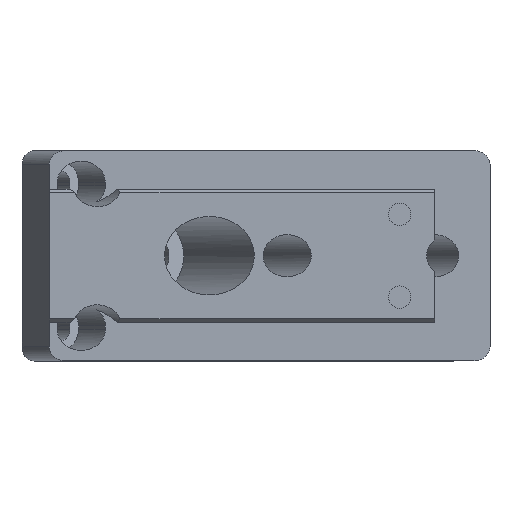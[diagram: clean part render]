
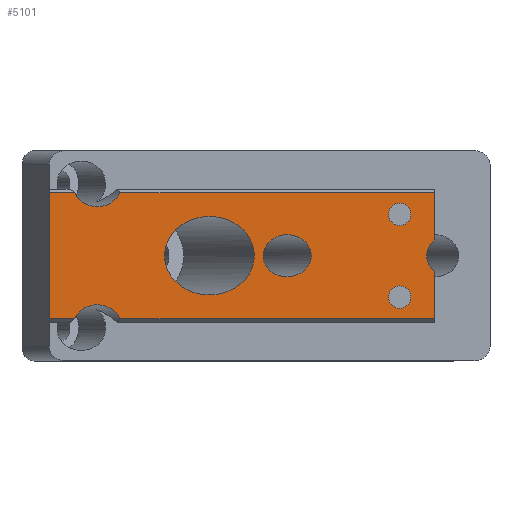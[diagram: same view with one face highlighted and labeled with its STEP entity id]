
A CAD part, top view. The second image highlights one B-rep face of the part: STEP entity #5101.
In plain terms, the highlighted planar face has unit normal (0, 0, 1).
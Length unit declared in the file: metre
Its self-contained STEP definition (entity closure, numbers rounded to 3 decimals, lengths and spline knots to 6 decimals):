
#270=ELLIPSE('',#5422,0.006403,0.0056);
#271=ELLIPSE('',#5423,0.00343,0.003);
#272=ELLIPSE('',#5426,0.00343,0.003);
#273=ELLIPSE('',#5427,0.00343,0.003);
#274=ELLIPSE('',#5428,0.00343,0.003);
#373=CIRCLE('',#5424,0.0016);
#374=CIRCLE('',#5425,0.0016);
#500=ORIENTED_EDGE('',*,*,#2068,.T.);
#501=ORIENTED_EDGE('',*,*,#2069,.T.);
#502=ORIENTED_EDGE('',*,*,#2070,.T.);
#503=ORIENTED_EDGE('',*,*,#2071,.T.);
#504=ORIENTED_EDGE('',*,*,#2072,.F.);
#505=ORIENTED_EDGE('',*,*,#2073,.T.);
#506=ORIENTED_EDGE('',*,*,#2074,.T.);
#507=ORIENTED_EDGE('',*,*,#2075,.T.);
#508=ORIENTED_EDGE('',*,*,#2076,.F.);
#509=ORIENTED_EDGE('',*,*,#2077,.T.);
#510=ORIENTED_EDGE('',*,*,#2078,.F.);
#511=ORIENTED_EDGE('',*,*,#2079,.T.);
#512=ORIENTED_EDGE('',*,*,#2080,.F.);
#513=ORIENTED_EDGE('',*,*,#2081,.T.);
#2068=EDGE_CURVE('',#2852,#2852,#270,.T.);
#2069=EDGE_CURVE('',#2853,#2853,#271,.T.);
#2070=EDGE_CURVE('',#2854,#2854,#373,.T.);
#2071=EDGE_CURVE('',#2855,#2855,#374,.T.);
#2072=EDGE_CURVE('',#2856,#2857,#272,.F.);
#2073=EDGE_CURVE('',#2856,#2858,#3360,.T.);
#2074=EDGE_CURVE('',#2858,#2859,#3361,.T.);
#2075=EDGE_CURVE('',#2859,#2860,#3362,.T.);
#2076=EDGE_CURVE('',#2861,#2860,#273,.F.);
#2077=EDGE_CURVE('',#2861,#2862,#3363,.T.);
#2078=EDGE_CURVE('',#2863,#2862,#3364,.T.);
#2079=EDGE_CURVE('',#2863,#2864,#274,.T.);
#2080=EDGE_CURVE('',#2865,#2864,#3365,.T.);
#2081=EDGE_CURVE('',#2865,#2857,#3366,.T.);
#2852=VERTEX_POINT('',#6969);
#2853=VERTEX_POINT('',#6971);
#2854=VERTEX_POINT('',#6973);
#2855=VERTEX_POINT('',#6975);
#2856=VERTEX_POINT('',#6977);
#2857=VERTEX_POINT('',#6978);
#2858=VERTEX_POINT('',#6980);
#2859=VERTEX_POINT('',#6982);
#2860=VERTEX_POINT('',#6984);
#2861=VERTEX_POINT('',#6986);
#2862=VERTEX_POINT('',#6988);
#2863=VERTEX_POINT('',#6990);
#2864=VERTEX_POINT('',#6992);
#2865=VERTEX_POINT('',#6994);
#3360=LINE('',#6979,#3841);
#3361=LINE('',#6981,#3842);
#3362=LINE('',#6983,#3843);
#3363=LINE('',#6987,#3844);
#3364=LINE('',#6989,#3845);
#3365=LINE('',#6993,#3846);
#3366=LINE('',#6995,#3847);
#3841=VECTOR('',#5812,1.);
#3842=VECTOR('',#5813,1.);
#3843=VECTOR('',#5814,1.);
#3844=VECTOR('',#5817,1.);
#3845=VECTOR('',#5818,1.);
#3846=VECTOR('',#5821,1.);
#3847=VECTOR('',#5822,1.);
#4309=EDGE_LOOP('',(#500));
#4310=EDGE_LOOP('',(#501));
#4311=EDGE_LOOP('',(#502));
#4312=EDGE_LOOP('',(#503));
#4313=EDGE_LOOP('',(#504,#505,#506,#507,#508,#509,#510,#511,#512,#513));
#4636=FACE_BOUND('',#4309,.T.);
#4637=FACE_BOUND('',#4310,.T.);
#4638=FACE_BOUND('',#4311,.T.);
#4639=FACE_BOUND('',#4312,.T.);
#4640=FACE_BOUND('',#4313,.T.);
#4955=PLANE('',#5421);
#5101=ADVANCED_FACE('',(#4636,#4637,#4638,#4639,#4640),#4955,.F.);
#5421=AXIS2_PLACEMENT_3D('',#6967,#5800,#5801);
#5422=AXIS2_PLACEMENT_3D('',#6968,#5802,#5803);
#5423=AXIS2_PLACEMENT_3D('',#6970,#5804,#5805);
#5424=AXIS2_PLACEMENT_3D('',#6972,#5806,#5807);
#5425=AXIS2_PLACEMENT_3D('',#6974,#5808,#5809);
#5426=AXIS2_PLACEMENT_3D('',#6976,#5810,#5811);
#5427=AXIS2_PLACEMENT_3D('',#6985,#5815,#5816);
#5428=AXIS2_PLACEMENT_3D('',#6991,#5819,#5820);
#5800=DIRECTION('',(0.,0.,-1.));
#5801=DIRECTION('',(-1.,0.,0.));
#5802=DIRECTION('',(0.,0.,-1.));
#5803=DIRECTION('',(-1.,0.,0.));
#5804=DIRECTION('',(0.,0.,-1.));
#5805=DIRECTION('',(-1.,0.,0.));
#5806=DIRECTION('',(0.,0.,-1.));
#5807=DIRECTION('',(-1.,0.,0.));
#5808=DIRECTION('',(0.,0.,-1.));
#5809=DIRECTION('',(-1.,0.,0.));
#5810=DIRECTION('',(0.,0.,-1.));
#5811=DIRECTION('',(-1.,0.,0.));
#5812=DIRECTION('',(-1.,0.,0.));
#5813=DIRECTION('',(0.,-1.,0.));
#5814=DIRECTION('',(1.,0.,0.));
#5815=DIRECTION('',(0.,0.,-1.));
#5816=DIRECTION('',(-1.,0.,0.));
#5817=DIRECTION('',(1.,0.,0.));
#5818=DIRECTION('',(0.,-1.,0.));
#5819=DIRECTION('',(0.,0.,-1.));
#5820=DIRECTION('',(-1.,0.,0.));
#5821=DIRECTION('',(0.,-1.,0.));
#5822=DIRECTION('',(-1.,0.,0.));
#6967=CARTESIAN_POINT('',(0.055,0.,0.0041));
#6968=CARTESIAN_POINT('',(0.022853,0.,0.0041));
#6969=CARTESIAN_POINT('',(0.01645,0.,0.0041));
#6970=CARTESIAN_POINT('',(0.033944,0.,0.0041));
#6971=CARTESIAN_POINT('',(0.030514,0.,0.0041));
#6972=CARTESIAN_POINT('',(0.05,0.0059,0.0041));
#6973=CARTESIAN_POINT('',(0.0484,0.0059,0.0041));
#6974=CARTESIAN_POINT('',(0.05,-0.0059,0.0041));
#6975=CARTESIAN_POINT('',(0.0484,-0.0059,0.0041));
#6976=CARTESIAN_POINT('',(0.006846,0.01,0.0041));
#6977=CARTESIAN_POINT('',(0.00361,0.009004,0.0041));
#6978=CARTESIAN_POINT('',(0.010082,0.009004,0.0041));
#6979=CARTESIAN_POINT('',(0.,0.009004,0.0041));
#6980=CARTESIAN_POINT('',(0.,0.009004,0.0041));
#6981=CARTESIAN_POINT('',(0.,0.,0.0041));
#6982=CARTESIAN_POINT('',(0.,-0.009004,0.0041));
#6983=CARTESIAN_POINT('',(0.055,-0.009004,0.0041));
#6984=CARTESIAN_POINT('',(0.00361,-0.009004,0.0041));
#6985=CARTESIAN_POINT('',(0.006846,-0.01,0.0041));
#6986=CARTESIAN_POINT('',(0.010082,-0.009004,0.0041));
#6987=CARTESIAN_POINT('',(0.055,-0.009004,0.0041));
#6988=CARTESIAN_POINT('',(0.055,-0.009004,0.0041));
#6989=CARTESIAN_POINT('',(0.055,0.,0.0041));
#6990=CARTESIAN_POINT('',(0.055,-0.002251,0.0041));
#6991=CARTESIAN_POINT('',(0.057268,0.,0.0041));
#6992=CARTESIAN_POINT('',(0.055,0.002251,0.0041));
#6993=CARTESIAN_POINT('',(0.055,0.,0.0041));
#6994=CARTESIAN_POINT('',(0.055,0.009004,0.0041));
#6995=CARTESIAN_POINT('',(0.,0.009004,0.0041));
